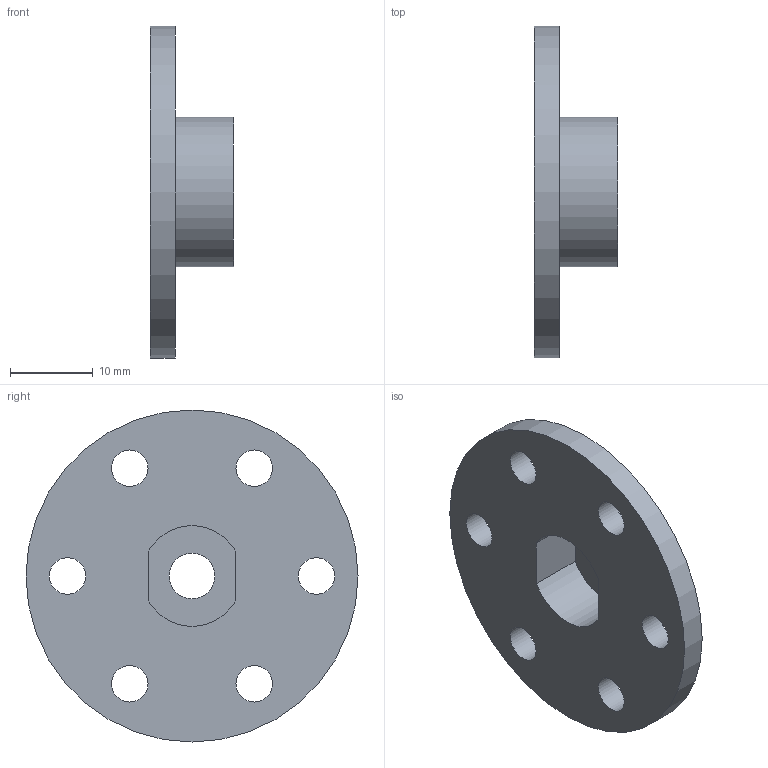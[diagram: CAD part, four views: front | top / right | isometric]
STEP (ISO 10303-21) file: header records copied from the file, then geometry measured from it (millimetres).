
FILE_DESCRIPTION(('Open CASCADE Model'),'2;1');
FILE_NAME('output_R12_detachable_R7_external_flange', '2026-09-28T18:17:09',('Author'),('Open CASCADE'), 'Open CASCADE STEP processor 7.9','build123d','Unknown');
FILE_SCHEMA(('AUTOMOTIVE_DESIGN { 1 0 10303 214 1 1 1 1 }'));
Length unit declared in the file: millimetre
Products named in the file (1): output_R12_detachable_R7_external_flange
Bounding box: 10 x 40 x 40 mm (x, y, z)
Volume: 4373.6 mm3; surface area: 3641 mm2
Topology: 1 solids, 1 shells, 19 faces, 42 edges, 28 vertices
Faces by surface type: cylinder 12, plane 7
Full cylindrical faces by diameter (mm): 4.4 x6, 5.5 x1, 8.7 x1, 18 x1, 40 x1
Entity records: 1122 total; most frequent: CARTESIAN_POINT 196, DIRECTION 173, ORIENTED_EDGE 84, PCURVE 84, DEFINITIONAL_REPRESENTATION 84, LINE 62, VECTOR 62, CIRCLE 47
